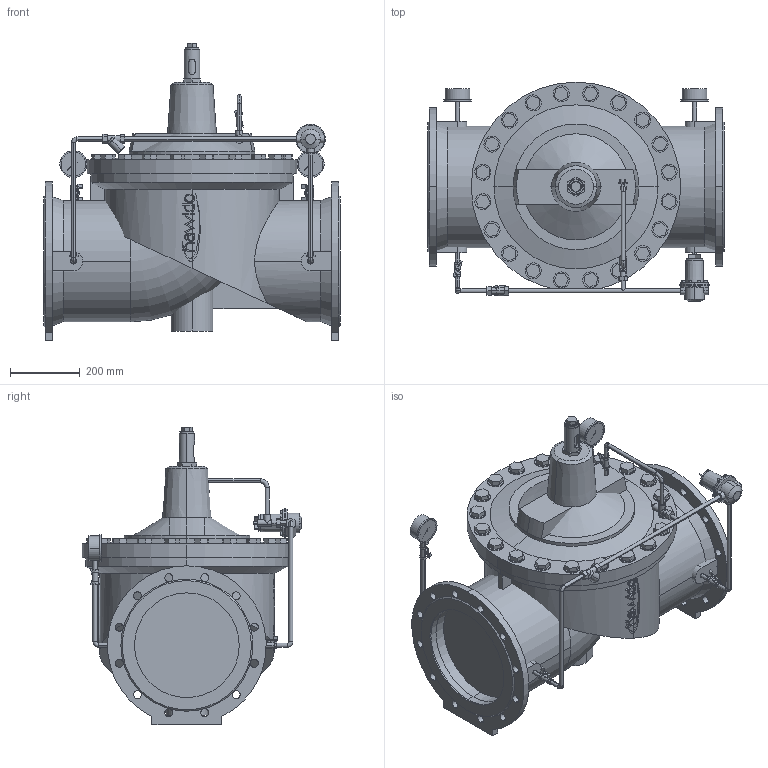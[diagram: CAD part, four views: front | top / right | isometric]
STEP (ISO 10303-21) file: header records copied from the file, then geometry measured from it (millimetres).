
FILE_DESCRIPTION(('STEP AP214'),'1');
FILE_NAME('S:/EK/USER/CAT6/3DHomepage_27-04-2012/neu_22-02-2013/1500-CH/1500_PN10_DN300.STP','2013-02-26T13:41:39',(' '),(' '),'Spatial InterOp 3D',' ',' ');
FILE_SCHEMA(('automotive_design'));
Length unit declared in the file: millimetre
Products named in the file (201): 3D-Objekt
Bounding box: 850 x 629.5 x 851.5 mm (x, y, z)
Volume: 133766177.4 mm3; surface area: 5994632.9 mm2
Topology: 201 solids, 201 shells, 1389 faces, 2963 edges, 1978 vertices
Faces by surface type: plane 962, cylinder 383, cone 28, torus 16
Entity records: 53849 total; most frequent: CARTESIAN_POINT 7034, DIRECTION 7004, ORIENTED_EDGE 5926, EDGE_CURVE 2963, AXIS2_PLACEMENT_3D 2468, LINE 2068, VECTOR 2068, VERTEX_POINT 1978
